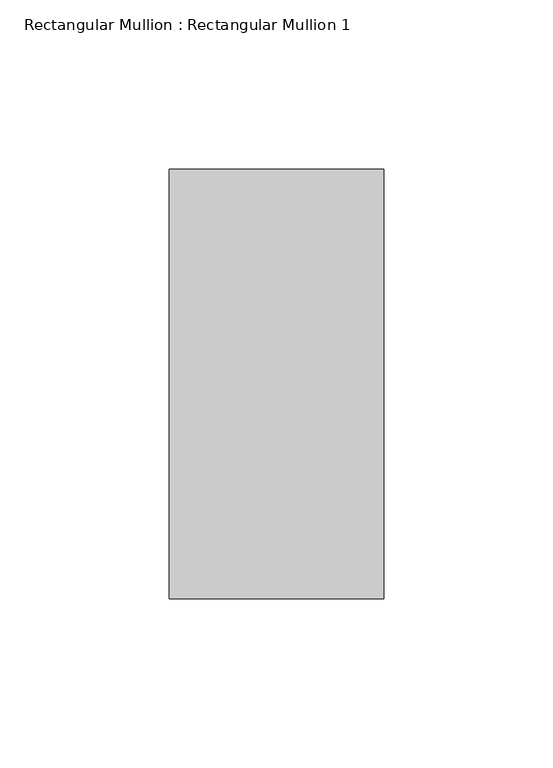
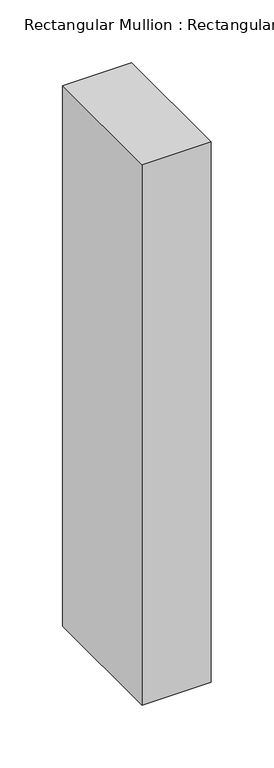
"""IFC4 building model written with IfcOpenShell, lengths in millimetres: member geometry, Rectangular Mullion : Rectangular Mullion 1."""

from ifc_helpers import new_model, si_unit, frame, origin, place, context, project, spatial, polyline, outline, extrude, source, transform, mapped, element, save


def rectangular_mullion_rectangular_mullion_1_55d4f6ce(model_context):
    return source(origin(), model_context, "Body", "SweptSolid", [
        extrude(outline(polyline([(0.0, 63.5), (0.0, -63.5), (-63.5, -63.5), (-63.5, 63.5), (0.0, 63.5)])), frame((0.0, 0.0, -526.295196), z_axis=(0.0, 0.0, 1.0), x_axis=(1.0, 0.0, 0.0)), (0.0, 0.0, 1.0), 526.295196),
    ])


if __name__ == "__main__":
    model = new_model("IFC4")
    model_context = context("Model", 3, world=origin())
    ifc_project = project(units=[si_unit("LENGTHUNIT", "METRE", prefix="MILLI")], contexts=[model_context])
    site = spatial("IfcSite", under=ifc_project)
    building = spatial("IfcBuilding", under=site)
    placement = place(None, origin())
    rectangular_mullion_rectangular_mullion_1_shape = rectangular_mullion_rectangular_mullion_1_55d4f6ce(model_context)
    element("IfcMember", 1, ObjectType="Rectangular Mullion : Rectangular Mullion 1", at=placement, inside=building, context=model_context, shape_type="MappedRepresentation", body=[
        mapped(rectangular_mullion_rectangular_mullion_1_shape, transform((0.0, 0.0, 0.0), x_axis=(1.0, 0.0, 0.0), y_axis=(0.0, 1.0, 0.0), z_axis=(0.0, 0.0, 1.0))),
    ])
    save(model, "model.ifc")
